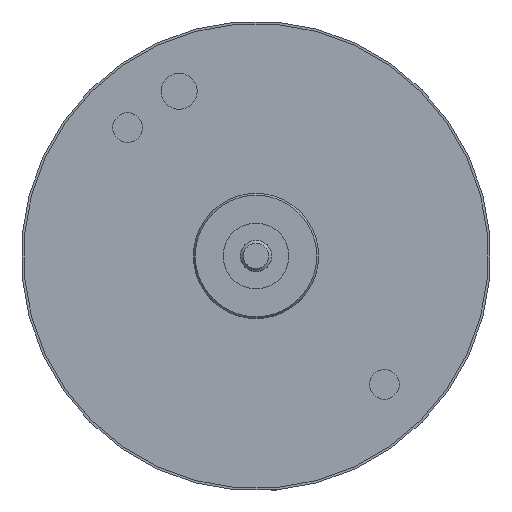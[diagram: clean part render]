
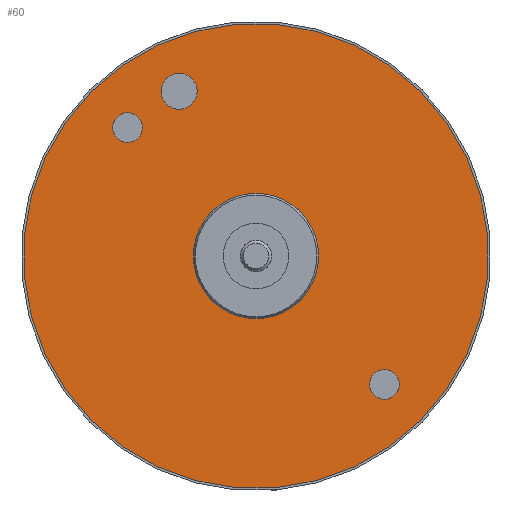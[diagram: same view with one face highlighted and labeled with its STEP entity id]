
A CAD part, left-side view. The second image highlights one B-rep face of the part: STEP entity #60.
In plain terms, the highlighted planar face has unit normal (-1, 0, 0).
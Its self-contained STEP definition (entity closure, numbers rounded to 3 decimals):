
#60=ADVANCED_FACE('', (#70,#80,#90,#100,#110), #120, .T.);
#2120=AXIS2_PLACEMENT_3D('Ax2Pl3d', #2130, #2140, #2150);
#2160=AXIS2_PLACEMENT_3D('Ax2Pl3d', #2170, #2180, #2190);
#2200=AXIS2_PLACEMENT_3D('Ax2Pl3d', #2210, #2220, #2230);
#2240=AXIS2_PLACEMENT_3D('Ax2Pl3d', #2250, #2260, #2270);
#2280=AXIS2_PLACEMENT_3D('Ax2Pl3d', #2290, #2300, #2310);
#2320=AXIS2_PLACEMENT_3D('Ax2Pl3d', #2330, #2340, #2350);
#2130=CARTESIAN_POINT('HicPkt', (0.,10.501,10.501));
#2170=CARTESIAN_POINT('HicPkt', (0.,0.,0.));
#6190=CARTESIAN_POINT('', (0.,10.501,10.501));
#2210=CARTESIAN_POINT('HicPkt', (0.,4.902,10.513));
#6200=CARTESIAN_POINT('', (0.,5.716,9.7));
#2250=CARTESIAN_POINT('HicPkt', (0.,8.202,8.202));
#6210=CARTESIAN_POINT('', (0.,8.874,7.531));
#2290=CARTESIAN_POINT('HicPkt', (0.,-8.202,-8.202));
#6220=CARTESIAN_POINT('', (0.,-7.531,-8.874));
#2330=CARTESIAN_POINT('HicPkt', (0.,0.,0.));
#6230=CARTESIAN_POINT('', (0.,2.828,2.828));
#7800=CIRCLE('Circle', #2160, 14.85);
#7810=CIRCLE('Circle', #2200, 1.15);
#7820=CIRCLE('Circle', #2240, 0.95);
#7830=CIRCLE('Circle', #2280, 0.95);
#7840=CIRCLE('Circle', #2320, 4.);
#2140=DIRECTION('Axis', (-1.,0.,0.))
;
#2150=DIRECTION('RefDirection', (0.,
0.,-1.));
#2180=DIRECTION('Axis', (-1.,0.,0.))
;
#2190=DIRECTION('RefDirection', (0.,
0.,-1.));
#2220=DIRECTION('Axis', (-1.,0.,0.))
;
#2230=DIRECTION('RefDirection', (0.,
0.,-1.));
#2260=DIRECTION('Axis', (-1.,0.,0.))
;
#2270=DIRECTION('RefDirection', (0.,
0.,-1.));
#2300=DIRECTION('Axis', (-1.,0.,0.))
;
#2310=DIRECTION('RefDirection', (0.,
0.,-1.));
#2340=DIRECTION('Axis', (-1.,0.,0.))
;
#2350=DIRECTION('RefDirection', (0.,
0.,-1.));
#13000=EDGE_CURVE('', #13010, #13010, #7800, .T.);
#13020=EDGE_CURVE('', #13030, #13030, #7810, .T.);
#13040=EDGE_CURVE('', #13050, #13050, #7820, .T.);
#13060=EDGE_CURVE('', #13070, #13070, #7830, .T.);
#13080=EDGE_CURVE('', #13090, #13090, #7840, .T.);
#15760=EDGE_LOOP('Edge_loop', (#15770));
#15780=EDGE_LOOP('Edge_loop', (#15790));
#15800=EDGE_LOOP('Edge_loop', (#15810));
#15820=EDGE_LOOP('Edge_loop', (#15830));
#15840=EDGE_LOOP('Edge_loop', (#15850));
#80=FACE_BOUND('', #15780, .T.);
#90=FACE_BOUND('', #15800, .T.);
#100=FACE_BOUND('', #15820, .T.);
#110=FACE_BOUND('', #15840, .T.);
#70=FACE_OUTER_BOUND('Face_outer_bound', #15760, .T.);
#15770=ORIENTED_EDGE('', *, *, #13000, .T.);
#15790=ORIENTED_EDGE('', *, *, #13020, .F.);
#15810=ORIENTED_EDGE('', *, *, #13040, .F.);
#15830=ORIENTED_EDGE('', *, *, #13060, .F.);
#15850=ORIENTED_EDGE('', *, *, #13080, .F.);
#120=PLANE('Plane', #2120);
#13010=VERTEX_POINT('', #6190);
#13030=VERTEX_POINT('', #6200);
#13050=VERTEX_POINT('', #6210);
#13070=VERTEX_POINT('', #6220);
#13090=VERTEX_POINT('', #6230);
